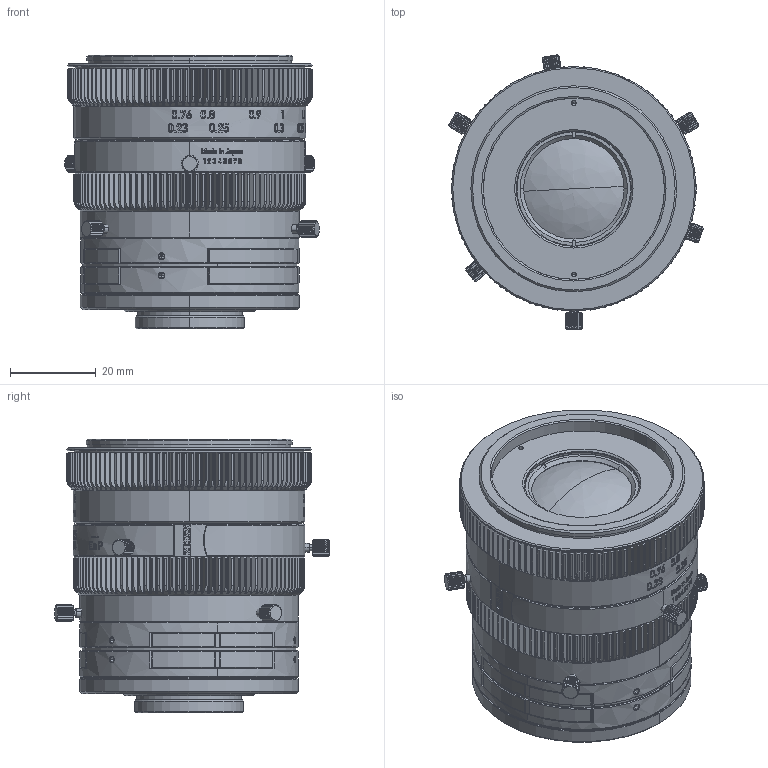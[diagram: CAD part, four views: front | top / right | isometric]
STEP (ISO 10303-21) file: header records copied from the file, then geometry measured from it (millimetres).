
FILE_DESCRIPTION((''),'2;1');
FILE_NAME('25MM_ASSY_20171219_ASM','2017-12-19T',('zouwb'),('CARL ZEISS'),'PRO/ENGINEER BY PARAMETRIC TECHNOLOGY CORPORATION, 2015030','PRO/ENGINEER BY PARAMETRIC TECHNOLOGY CORPORATION, 2015030','');
FILE_SCHEMA(('AUTOMOTIVE_DESIGN { 1 0 10303 214 1 1 1 1 }'));
Products named in the file (33): KPM-1015_201_C-MOUNT; EEP_I___R_J_EEP3_5A; ____-______O__4_2_; ____-______O__4_3_; ____-______O__4_1_; ____-______O__4_4_; ____-______O__4_5_; ____1; ZEISS_LOGO_75_ASM; KPM-1013-184_FRONT_FRAME; APERTURE_LEVER; FOCUS_LEVER; KPM-1013_G12-13; KPM-1013-112_G13_CLAMP; KPM-1013-106_REAR_LENS_BARREL; REAR_LENS_ASSY_ASM; KPM-1013-183_APERTURE_GEAR; KPM-1013-102_G1_CLAMP; KPM-1013_G1; FRONT_LENS_ASSY_ASM; KPM-1013-185_SHADING_RING; KPM-1013-181_FOCUS_GEAR__O___M_; AEF_AEF3; KPM-1011_176_FOAM_RING; KPM-1011_171_BF_BASE__X_G_B_P__; KPM-1011_174_THREAD_RING_A; KPM-1011_177_FOAM_PAD_A; KPM-1011_175_THREAD_RING_B; KPM-1011_172_BF_EXTENSION; KPM-1011_BFA_ASSY_ASM; KPM-1013-182_INDEX_RING_KPM-101; ASM0001_ASM; 25MM_ASSY_20171219_ASM
Assembly tree (46 placements, depth 4):
  25MM_ASSY_20171219_ASM
    ASM0001_ASM
      KPM-1015_201_C-MOUNT
      EEP_I___R_J_EEP3_5A  x4
      ZEISS_LOGO_75_ASM  x2
        ____-______O__4_2_
        ____-______O__4_3_
        ____-______O__4_1_
        ____-______O__4_4_
        ____-______O__4_5_
        ____1
      KPM-1013-184_FRONT_FRAME
      APERTURE_LEVER  x3
      FOCUS_LEVER  x3
      REAR_LENS_ASSY_ASM
        KPM-1013_G12-13
        KPM-1013-112_G13_CLAMP
        KPM-1013-106_REAR_LENS_BARREL
      KPM-1013-183_APERTURE_GEAR
      FRONT_LENS_ASSY_ASM
        KPM-1013-102_G1_CLAMP
        KPM-1013_G1
      KPM-1013-185_SHADING_RING
      KPM-1013-181_FOCUS_GEAR__O___M_
      KPM-1011_BFA_ASSY_ASM
        AEF_AEF3  x6
        KPM-1011_176_FOAM_RING
        KPM-1011_171_BF_BASE__X_G_B_P__
        KPM-1011_174_THREAD_RING_A
        KPM-1011_177_FOAM_PAD_A  x2
        KPM-1011_175_THREAD_RING_B
        KPM-1011_172_BF_EXTENSION
      KPM-1013-182_INDEX_RING_KPM-101
Bounding box: 59.35 x 64.02 x 63.78 mm (x, y, z)
Volume: 42716 mm3; surface area: 58218.4 mm2
Topology: 46 solids, 46 shells, 4847 faces, 13885 edges, 9337 vertices
Faces by surface type: cylinder 1707, plane 1170, bspline 719, cone 542, extrusion 474, torus 231, revolution 2, sphere 2
Entity records: 199745 total; most frequent: CARTESIAN_POINT 90370, ORIENTED_EDGE 23798, DIRECTION 18093, EDGE_CURVE 11899, VERTEX_POINT 8063, AXIS2_PLACEMENT_3D 6796, B_SPLINE_CURVE_WITH_KNOTS 4576, VECTOR 4499
